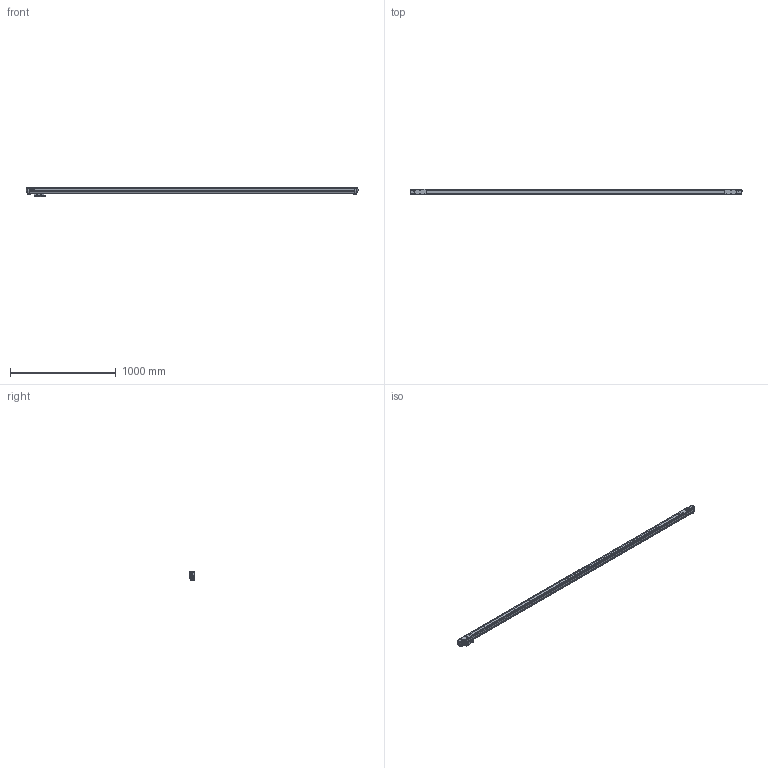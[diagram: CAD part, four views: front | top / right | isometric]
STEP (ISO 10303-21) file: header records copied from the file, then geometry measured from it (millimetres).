
FILE_DESCRIPTION(('Creo Elements/Direct Modeling STEP Export'),'2;1');
FILE_NAME('Li-28.stp','2017-01-11T10:34:02',(''),(''),'Creo Elements/Direct Modeling STEP processor for AP214 (Solid Model)','Creo Elements/Direct Modeling 18.1H 24-Oct-2015 (C) Parametric Technology GmbH','');
FILE_SCHEMA(('AUTOMOTIVE_DESIGN { 1 0 10303 214 1 1 1 1 }'));
Length unit declared in the file: millimetre
Products named in the file (8): CABEZA.1; CABEZA; Li-28_PERFIL; TAPA_DERECHA; TAPA_IZQUIERDA
Assembly tree (4 placements, depth 2):
  CABEZA
    CABEZA.1
  Li-28_PERFIL
    Li-28_PERFIL
  TAPA_DERECHA
    TAPA_DERECHA
  TAPA_IZQUIERDA
    TAPA_IZQUIERDA
Bounding box: 3141.61 x 50 x 86.45 mm (x, y, z)
Volume: 7976529.9 mm3; surface area: 973521 mm2
Topology: 5 solids, 26 shells, 2933 faces, 7929 edges, 5114 vertices
Faces by surface type: plane 1120, cylinder 1059, bspline 367, cone 250, torus 111, sphere 24, extrusion 2
Entity records: 137115 total; most frequent: CARTESIAN_POINT 59226, ORIENTED_EDGE 15808, DIRECTION 12123, EDGE_CURVE 7903, VERTEX_POINT 5112, AXIS2_PLACEMENT_3D 4294, VECTOR 3535, LINE 3533
